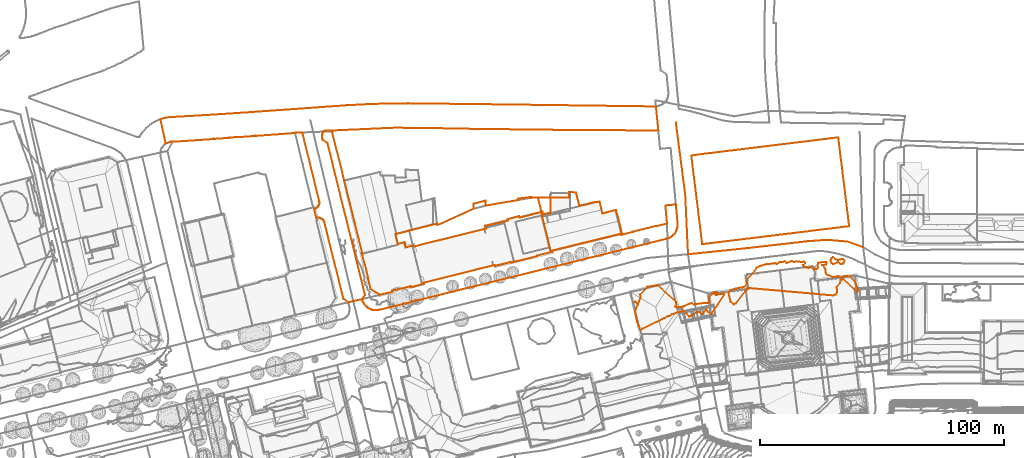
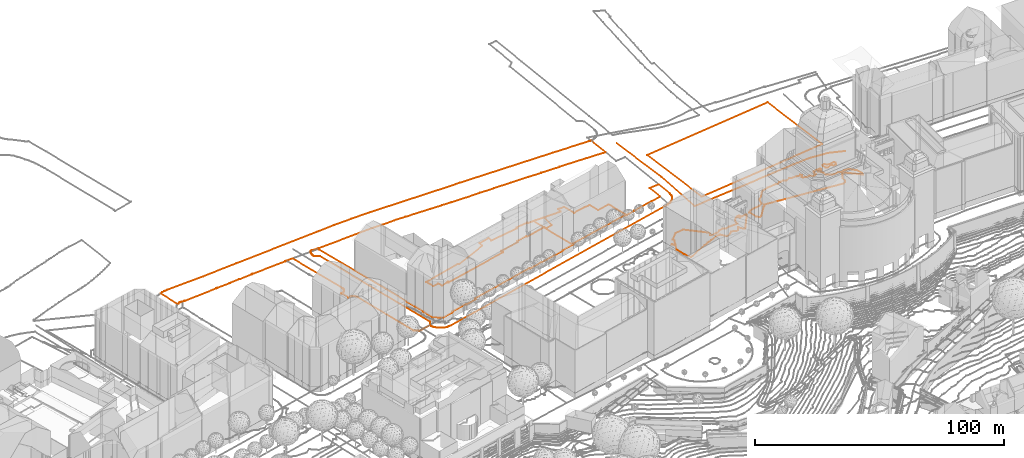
# Not in any storey, part 220 of 494: 10 proxies.
"""IFC2X3 model written with IfcOpenShell, lengths in metres."""

from ifc_helpers import new_model, entity, si_unit, frame, origin_with_axes, place, context, subcontext, project, element, save


model = new_model("IFC2X3")

# Units and contexts
model_context = context("Model", 3, precision=1e-05, world=origin_with_axes())
body_context = subcontext(model_context, "Body", "Model", "MODEL_VIEW")
ifc_project = project(units=[si_unit("AREAUNIT", "SQUARE_METRE"), si_unit("LENGTHUNIT", "METRE")], contexts=[model_context])

# Proxies
proxy_1_placement = place(None, frame((491.2227320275, 421.6907303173, 542.441), z_axis=(0.0, 0.0, 1.0), x_axis=(1.0, 0.0, 0.0)))
element("IfcBuildingElementProxy", 1, at=proxy_1_placement, Name="Road 4", ObjectType="NOTDEFINED", context=body_context, shape_type="GeometricCurveSet", body=[
    entity("IfcGeometricCurveSet", [entity("IfcPolyline", [entity("IfcCartesianPoint", [0.0, 0.0, 0.0]), entity("IfcCartesianPoint", [23.7289999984, 2.4449999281, 0.115]), entity("IfcCartesianPoint", [48.8959999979, 5.320999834, 0.12]), entity("IfcCartesianPoint", [56.9499999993, 5.89599982, 0.154]), entity("IfcCartesianPoint", [65.1479999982, 5.1779998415, 0.195]), entity("IfcCartesianPoint", [71.7629999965, 2.8759999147, 0.212])])]),
])
proxy_2_placement = place(None, frame((486.1887320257, 476.051728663, 542.28), z_axis=(0.0, 0.0, 1.0), x_axis=(1.0, 0.0, 0.0)))
element("IfcBuildingElementProxy", 2, at=proxy_2_placement, Name="Road 142", ObjectType="NOTDEFINED", context=body_context, shape_type="GeometricCurveSet", body=[
    entity("IfcGeometricCurveSet", [entity("IfcPolyline", [entity("IfcCartesianPoint", [0.0, 0.0, 0.0]), entity("IfcCartesianPoint", [3.8839999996, -29.9119990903, 0.013]), entity("IfcCartesianPoint", [5.0340000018, -54.3609983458, 0.161])])]),
])
proxy_3_placement = place(None, frame((492.5687320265, 462.1847160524, 542.5206115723), z_axis=(0.0, 0.0, 1.0), x_axis=(1.0, 0.0, 0.0)))
element("IfcBuildingElementProxy", 3, at=proxy_3_placement, Name="Roads Outline 46", ObjectType="NOTDEFINED", context=body_context, shape_type="GeometricCurveSet", body=[
    entity("IfcGeometricCurveSet", [entity("IfcPolyline", [entity("IfcCartesianPoint", [0.0, 0.0, 0.0]), entity("IfcCartesianPoint", [60.1900000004, 7.3900000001, 0.3333983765]), entity("IfcCartesianPoint", [64.6520000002, -29.003, 0.3335759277]), entity("IfcCartesianPoint", [4.4590000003, -36.3689999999, 0.0088112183]), entity("IfcCartesianPoint", [0.0, 0.0, 0.0])])]),
])
proxy_4_placement = place(None, frame((371.3067320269, 429.9197160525, 542.1499628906), z_axis=(0.0, 0.0, 1.0), x_axis=(1.0, 0.0, 0.0)))
element("IfcBuildingElementProxy", 4, at=proxy_4_placement, Name="Roads Outline 51", ObjectType="NOTDEFINED", context=body_context, shape_type="GeometricCurveSet", body=[
    entity("IfcGeometricCurveSet", [entity("IfcPolyline", [entity("IfcCartesianPoint", [0.0, 0.0, 0.0]), entity("IfcCartesianPoint", [5.73, 1.4479999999, 0.0662686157]), entity("IfcCartesianPoint", [17.0699999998, 4.3149999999, 0.2485368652]), entity("IfcCartesianPoint", [17.628, 3.885, 0.2478557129]), entity("IfcCartesianPoint", [32.1089999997, 10.4109999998, 0.2823580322]), entity("IfcCartesianPoint", [32.1229999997, 12.4679999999, 0.2827570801]), entity("IfcCartesianPoint", [36.952, 13.7309999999, 0.2695540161]), entity("IfcCartesianPoint", [37.0579999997, 11.7009999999, 0.270621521]), entity("IfcCartesianPoint", [50.0970000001, 13.933, 0.3232791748]), entity("IfcCartesianPoint", [50.412, 13.987, 0.31218573]), entity("IfcCartesianPoint", [50.327, 14.5209999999, 0.3151791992]), entity("IfcCartesianPoint", [55.6459999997, 15.246, 0.4142369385]), entity("IfcCartesianPoint", [55.6919999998, 14.8869999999, 0.4150623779]), entity("IfcCartesianPoint", [55.906, 14.923, 0.4185563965]), entity("IfcCartesianPoint", [58.466, 14.963, 0.4483769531]), entity("IfcCartesianPoint", [63.335, 14.9839999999, 0.4208803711]), entity("IfcCartesianPoint", [63.5649999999, 14.9849999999, 0.4200240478]), entity("IfcCartesianPoint", [63.5090000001, 8.824, 0.4202325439]), entity("IfcCartesianPoint", [60.4139999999, 8.064, 0.4387429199]), entity("IfcCartesianPoint", [60.139, 9.1229999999, 0.4405556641]), entity("IfcCartesianPoint", [59.926, 9.0829999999, 0.4419597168]), entity("IfcCartesianPoint", [59.7259999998, 9.0330000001, 0.4430568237]), entity("IfcCartesianPoint", [50.8959999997, 6.794, 0.2966740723]), entity("IfcCartesianPoint", [50.7519999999, 7.3699999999, 0.300211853]), entity("IfcCartesianPoint", [45.9419999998, 6.183, 0.3147667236]), entity("IfcCartesianPoint", [46.0859999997, 5.598, 0.3150303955]), entity("IfcCartesianPoint", [37.1489999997, 3.443, 0.2715379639]), entity("IfcCartesianPoint", [36.818, 3.3629999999, 0.2692299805]), entity("IfcCartesianPoint", [37.0839999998, 2.2989999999, 0.2708833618]), entity("IfcCartesianPoint", [36.8879999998, 2.25, 0.2689094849]), entity("IfcCartesianPoint", [7.5970000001, -5.061, 0.2592164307]), entity("IfcCartesianPoint", [7.4609999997, -4.577, 0.2669842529]), entity("IfcCartesianPoint", [7.267, -4.6300000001, 0.2485261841]), entity("IfcCartesianPoint", [7.0499999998, -4.6880000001, 0.2279307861]), entity("IfcCartesianPoint", [4.2439999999, -5.4140000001, 0.0237553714]), entity("IfcCartesianPoint", [3.8859999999, -3.9939999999, 0.0296766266]), entity("IfcCartesianPoint", [3.9249999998, -3.983, 0.0301345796]), entity("IfcCartesianPoint", [3.7599999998, -3.3290000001, 0.0396867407]), entity("IfcCartesianPoint", [1.0129999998, -4.0190000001, 0.0265872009]), entity("IfcCartesianPoint", [0.0, 0.0, 0.0])])]),
])
proxy_5_placement = place(None, frame((341.3117320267, 470.3077160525, 541.9813278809), z_axis=(0.0, 0.0, 1.0), x_axis=(1.0, 0.0, 0.0)))
element("IfcBuildingElementProxy", 5, at=proxy_5_placement, Name="Roads Outline 52", ObjectType="NOTDEFINED", context=body_context, shape_type="GeometricCurveSet", body=[
    entity("IfcGeometricCurveSet", [entity("IfcPolyline", [entity("IfcCartesianPoint", [0.0, 0.0, 0.0]), entity("IfcCartesianPoint", [0.048, 0.4639999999, -0.0005449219]), entity("IfcCartesianPoint", [0.1430000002, 0.9199999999, -0.0016234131]), entity("IfcCartesianPoint", [0.2319999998, 1.162, -0.0026337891]), entity("IfcCartesianPoint", [0.3569999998, 1.3869999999, -0.0040528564]), entity("IfcCartesianPoint", [0.5150000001, 1.591, -0.0058465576]), entity("IfcCartesianPoint", [0.6680000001, 1.7379999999, -0.0075834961]), entity("IfcCartesianPoint", [0.8390000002, 1.8639999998, -0.0095247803]), entity("IfcCartesianPoint", [1.1600000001, 2.0249999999, -0.0249763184]), entity("IfcCartesianPoint", [1.5079999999, 2.112, -0.0429030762]), entity("IfcCartesianPoint", [1.8670000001, 2.1209999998, -0.0613757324]), entity("IfcCartesianPoint", [4.0069999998, 2.0629999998, -0.0727415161]), entity("IfcCartesianPoint", [4.0830000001, 1.747, -0.0698701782]), entity("IfcCartesianPoint", [4.034, 1.726, -0.0717214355]), entity("IfcCartesianPoint", [4.1919999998, 1.0719999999, -0.0657520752]), entity("IfcCartesianPoint", [4.2390000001, 1.071, -0.0639763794]), entity("IfcCartesianPoint", [9.0430000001, -18.2420000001, 0.0092376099]), entity("IfcCartesianPoint", [9.0079999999, -18.2610000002, 0.0113204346]), entity("IfcCartesianPoint", [9.0600000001, -18.4750000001, 0.0082259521]), entity("IfcCartesianPoint", [9.1549999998, -18.8700000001, 0.0025725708]), entity("IfcCartesianPoint", [9.2179999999, -18.8560000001, -0.0011765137]), entity("IfcCartesianPoint", [16.4010000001, -47.99, 0.1141248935]), entity("IfcCartesianPoint", [16.2429999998, -48.0330000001, 0.1132426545]), entity("IfcCartesianPoint", [16.3539999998, -48.4790000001, 0.1252494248]), entity("IfcCartesianPoint", [17.4980000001, -53.0660000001, 0.1005418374]), entity("IfcCartesianPoint", [17.622, -53.044, 0.1004554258]), entity("IfcCartesianPoint", [18.8059999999, -57.8640000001, 0.0593007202]), entity("IfcCartesianPoint", [18.682, -57.8910000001, 0.0580421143]), entity("IfcCartesianPoint", [19.9369999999, -62.963, 0.0832633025]), entity("IfcCartesianPoint", [23.6359999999, -65.2680000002, 0.0802575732]), entity("IfcCartesianPoint", [28.801, -63.969, 0.1331612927]), entity("IfcCartesianPoint", [28.7069999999, -63.591, 0.1575611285]), entity("IfcCartesianPoint", [36.1779999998, -61.7280000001, 0.1812755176]), entity("IfcCartesianPoint", [36.2719999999, -62.1060000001, 0.1820090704]), entity("IfcCartesianPoint", [41.0069999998, -60.9340000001, 0.2471613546]), entity("IfcCartesianPoint", [41.4920000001, -60.814, 0.2407499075]), entity("IfcCartesianPoint", [41.3620000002, -60.3200000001, 0.2490253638]), entity("IfcCartesianPoint", [70.7089999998, -53.0080000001, 0.487225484]), entity("IfcCartesianPoint", [70.8250000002, -53.4740000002, 0.4918027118]), entity("IfcCartesianPoint", [71.3489999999, -53.3420000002, 0.497026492]), entity("IfcCartesianPoint", [77.0630000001, -51.9000000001, 0.5628379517]), entity("IfcCartesianPoint", [77.1140000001, -52.108, 0.5646739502]), entity("IfcCartesianPoint", [88.0869999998, -49.409, 0.6401970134]), entity("IfcCartesianPoint", [88.0219999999, -49.179, 0.6389728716]), entity("IfcCartesianPoint", [93.7719999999, -47.7580000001, 0.6169942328]), entity("IfcCartesianPoint", [94.2620000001, -47.6460000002, 0.6125298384]), entity("IfcCartesianPoint", [94.1319999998, -47.1260000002, 0.6095552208]), entity("IfcCartesianPoint", [122.4849999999, -40.192, 0.6374625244]), entity("IfcCartesianPoint", [122.6189999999, -40.6630000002, 0.6415355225]), entity("IfcCartesianPoint", [122.9789999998, -40.5730000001, 0.6431118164]), entity("IfcCartesianPoint", [127.1979999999, -39.5330000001, 0.5915974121]), entity("IfcCartesianPoint", [127.1579999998, -39.3930000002, 0.5912458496]), entity("IfcCartesianPoint", [136.6749999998, -37.0450000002, 0.548128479]), entity("IfcCartesianPoint", [136.7170000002, -37.172, 0.5469928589]), entity("IfcCartesianPoint", [141.3100000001, -36.044, 0.4828564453]), entity("IfcCartesianPoint", [140.6170000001, -28.6460000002, 0.4720358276]), entity("IfcCartesianPoint", [144.9309999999, -28.2380000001, 0.5539501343]), entity("IfcCartesianPoint", [145.6209999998, -35.871, 0.559130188]), entity("IfcCartesianPoint", [145.6540000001, -36.544, 0.5593779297]), entity("IfcCartesianPoint", [145.6099999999, -37.2170000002, 0.5590476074]), entity("IfcCartesianPoint", [145.4909999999, -37.8800000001, 0.5581542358]), entity("IfcCartesianPoint", [145.298, -38.5260000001, 0.5567053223]), entity("IfcCartesianPoint", [145.034, -39.145, 0.5547233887]), entity("IfcCartesianPoint", [144.7009999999, -39.7310000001, 0.5540160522]), entity("IfcCartesianPoint", [144.304, -40.2760000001, 0.5553487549]), entity("IfcCartesianPoint", [143.8390000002, -40.78, 0.5569575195]), entity("IfcCartesianPoint", [143.3199999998, -41.2270000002, 0.5596184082]), entity("IfcCartesianPoint", [142.7519999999, -41.612, 0.5541252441]), entity("IfcCartesianPoint", [142.1439999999, -41.929, 0.5124143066]), entity("IfcCartesianPoint", [141.503, -42.1730000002, 0.4864963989]), entity("IfcCartesianPoint", [141.3020000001, -42.233, 0.4827055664]), entity("IfcCartesianPoint", [141.0989999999, -42.2860000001, 0.4788770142]), entity("IfcCartesianPoint", [23.4610000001, -71.3660000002, -0.1184070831]), entity("IfcCartesianPoint", [22.7960000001, -71.4850000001, -0.1276256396]), entity("IfcCartesianPoint", [22.122, -71.527, -0.1253325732]), entity("IfcCartesianPoint", [21.4479999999, -71.4920000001, -0.1268448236]), entity("IfcCartesianPoint", [20.7820000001, -71.3800000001, -0.1284472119]), entity("IfcCartesianPoint", [20.1329999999, -71.192, -0.1162178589]), entity("IfcCartesianPoint", [19.5099999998, -70.932, -0.1090825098]), entity("IfcCartesianPoint", [18.9210000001, -70.6020000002, -0.1078495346]), entity("IfcCartesianPoint", [18.4019999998, -70.2290000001, -0.1030802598]), entity("IfcCartesianPoint", [17.926, -69.8030000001, -0.1095355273]), entity("IfcCartesianPoint", [17.4989999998, -69.327, -0.1082908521]), entity("IfcCartesianPoint", [17.125, -68.8090000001, -0.1099211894]), entity("IfcCartesianPoint", [16.8100000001, -68.253, -0.1107498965]), entity("IfcCartesianPoint", [16.557, -67.666, -0.1078917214]), entity("IfcCartesianPoint", [16.3689999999, -67.0550000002, -0.0898839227]), entity("IfcCartesianPoint", [16.4199999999, -66.9710000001, -0.0825652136]), entity("IfcCartesianPoint", [17.54, -65.111, -0.0204521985]), entity("IfcCartesianPoint", [2.219, -3.0860000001, -0.0722038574]), entity("IfcCartesianPoint", [0.1949999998, -1.777, -0.0022137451]), entity("IfcCartesianPoint", [0.1030000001, -1.344, -0.0011693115]), entity("IfcCartesianPoint", [0.04, -0.9060000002, -0.0004541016]), entity("IfcCartesianPoint", [0.0049999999, -0.4540000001, -5.67627e-05]), entity("IfcCartesianPoint", [0.0, 0.0, 0.0])])]),
])
proxy_6_placement = place(None, frame((275.0697320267, 477.0437160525, 541.6987900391), z_axis=(0.0, 0.0, 1.0), x_axis=(1.0, 0.0, 0.0)))
element("IfcBuildingElementProxy", 6, at=proxy_6_placement, Name="Roads Outline 98", ObjectType="NOTDEFINED", context=body_context, shape_type="GeometricCurveSet", body=[
    entity("IfcGeometricCurveSet", [entity("IfcPolyline", [entity("IfcCartesianPoint", [0.0, 0.0, 0.0]), entity("IfcCartesianPoint", [0.9550000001, 0.2999999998, 0.0450963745]), entity("IfcCartesianPoint", [1.929, 0.534, 0.0207940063]), entity("IfcCartesianPoint", [2.9160000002, 0.7009999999, 0.0186401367]), entity("IfcCartesianPoint", [3.912, 0.801, -0.0177634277]), entity("IfcCartesianPoint", [20.8390000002, 1.7969999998, -0.0187177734]), entity("IfcCartesianPoint", [37.0350000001, 2.865, 0.1146030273]), entity("IfcCartesianPoint", [76.2800000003, 5.6599999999, 0.2426313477]), entity("IfcCartesianPoint", [84.1529999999, 6.098, 0.4367965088]), entity("IfcCartesianPoint", [92.6230000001, 6.3779999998, 0.4419957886]), entity("IfcCartesianPoint", [101.443, 6.4759999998, 0.5096697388]), entity("IfcCartesianPoint", [142.7919999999, 5.9759999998, 0.7670620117]), entity("IfcCartesianPoint", [185.5440000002, 5.4099999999, 0.9065622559]), entity("IfcCartesianPoint", [202.1740000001, 5.193, 0.8507559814]), entity("IfcCartesianPoint", [202.5989999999, 5.1849999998, 0.8392645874]), entity("IfcCartesianPoint", [203.0240000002, 5.2089999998, 0.8277731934]), entity("IfcCartesianPoint", [204.0160000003, -4.78, 0.7992883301]), entity("IfcCartesianPoint", [195.247, -4.6860000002, 0.8912233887]), entity("IfcCartesianPoint", [195.2519999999, -4.6330000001, 0.8912294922]), entity("IfcCartesianPoint", [182.966, -4.5110000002, 0.9174223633]), entity("IfcCartesianPoint", [182.9560000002, -4.5550000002, 0.9174052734]), entity("IfcCartesianPoint", [174.3390000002, -4.456, 0.889439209]), entity("IfcCartesianPoint", [174.3259999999, -4.5440000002, 0.8896708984]), entity("IfcCartesianPoint", [168.2680000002, -4.4710000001, 0.9985366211]), entity("IfcCartesianPoint", [160.4900000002, -4.3790000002, 0.8777983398]), entity("IfcCartesianPoint", [152.6710000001, -4.2890000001, 0.8739831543]), entity("IfcCartesianPoint", [146.1809999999, -4.2100000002, 0.779840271]), entity("IfcCartesianPoint", [132.8829999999, -4.0710000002, 0.7219985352]), entity("IfcCartesianPoint", [128.463, -4.0010000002, 0.7368657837]), entity("IfcCartesianPoint", [123.7630000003, -3.9310000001, 0.7331105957]), entity("IfcCartesianPoint", [111.6899999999, -3.6850000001, 0.7322818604]), entity("IfcCartesianPoint", [106.4109999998, -3.5620000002, 0.7436603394]), entity("IfcCartesianPoint", [101.1630000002, -3.6130000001, 0.5055169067]), entity("IfcCartesianPoint", [96.6600000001, -3.4920000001, 0.4575756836]), entity("IfcCartesianPoint", [70.7039999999, -4.6530000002, 0.2269865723]), entity("IfcCartesianPoint", [70.2489999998, -4.6730000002, 0.2097963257]), entity("IfcCartesianPoint", [68.1090000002, -4.6150000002, 0.2211621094]), entity("IfcCartesianPoint", [67.75, -4.6240000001, 0.2396347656]), entity("IfcCartesianPoint", [67.4020000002, -4.7110000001, 0.2575615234]), entity("IfcCartesianPoint", [67.0810000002, -4.8720000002, 0.2730130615]), entity("IfcCartesianPoint", [66.9100000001, -4.9980000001, 0.2749543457]), entity("IfcCartesianPoint", [66.7570000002, -5.145, 0.2766912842]), entity("IfcCartesianPoint", [66.5989999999, -5.3490000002, 0.2784849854]), entity("IfcCartesianPoint", [66.4739999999, -5.574, 0.2799040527]), entity("IfcCartesianPoint", [66.3850000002, -5.8160000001, 0.2809144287]), entity("IfcCartesianPoint", [66.29, -6.2720000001, 0.2819929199]), entity("IfcCartesianPoint", [66.2420000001, -6.736, 0.2825378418]), entity("IfcCartesianPoint", [66.247, -7.1900000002, 0.2824810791]), entity("IfcCartesianPoint", [66.2820000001, -7.6420000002, 0.2820837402]), entity("IfcCartesianPoint", [66.3450000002, -8.0800000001, 0.2813685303]), entity("IfcCartesianPoint", [66.4369999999, -8.513, 0.2803240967]), entity("IfcCartesianPoint", [68.4610000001, -9.8220000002, 0.2103339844]), entity("IfcCartesianPoint", [83.7820000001, -71.8470000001, 0.2620856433]), entity("IfcCartesianPoint", [82.662, -73.7070000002, 0.1999726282]), entity("IfcCartesianPoint", [76.9339999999, -75.0580000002, 0.1261030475]), entity("IfcCartesianPoint", [76.8870000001, -74.875, 0.1330368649]), entity("IfcCartesianPoint", [75.0130000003, -73.743, 0.1900786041]), entity("IfcCartesianPoint", [67.2200000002, -42.3730000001, 0.2669370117]), entity("IfcCartesianPoint", [67.0649999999, -41.9410000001, 0.2731947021]), entity("IfcCartesianPoint", [66.8390000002, -41.5420000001, 0.275760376]), entity("IfcCartesianPoint", [66.5490000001, -41.1860000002, 0.2790526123]), entity("IfcCartesianPoint", [66.2039999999, -40.8840000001, 0.2829692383]), entity("IfcCartesianPoint", [65.8119999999, -40.645, 0.2785126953]), entity("IfcCartesianPoint", [65.4560000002, -40.5080000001, 0.271842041]), entity("IfcCartesianPoint", [65.0840000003, -40.4240000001, 0.2647866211]), entity("IfcCartesianPoint", [64.7039999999, -40.3960000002, 0.2563210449]), entity("IfcCartesianPoint", [64.324, -40.4240000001, 0.2478554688]), entity("IfcCartesianPoint", [63.952, -40.5080000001, 0.2393586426]), entity("IfcCartesianPoint", [63.906, -40.5220000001, 0.2382720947]), entity("IfcCartesianPoint", [62.966, -36.7170000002, 0.2160687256]), entity("IfcCartesianPoint", [63.0249999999, -36.7080000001, 0.2174623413]), entity("IfcCartesianPoint", [63.4070000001, -36.6170000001, 0.2264854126]), entity("IfcCartesianPoint", [63.77, -36.4680000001, 0.2350596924]), entity("IfcCartesianPoint", [64.1060000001, -36.2640000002, 0.2429962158]), entity("IfcCartesianPoint", [64.4050000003, -36.01, 0.2496599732]), entity("IfcCartesianPoint", [64.662, -35.7130000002, 0.255385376]), entity("IfcCartesianPoint", [64.8650000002, -35.3890000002, 0.2599077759]), entity("IfcCartesianPoint", [65.017, -35.0380000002, 0.2632940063]), entity("IfcCartesianPoint", [65.1140000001, -34.6690000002, 0.2654337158]), entity("IfcCartesianPoint", [65.1540000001, -34.2890000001, 0.2661832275]), entity("IfcCartesianPoint", [65.1359999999, -33.9070000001, 0.2658459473]), entity("IfcCartesianPoint", [65.0610000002, -33.5320000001, 0.264274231]), entity("IfcCartesianPoint", [58.1550000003, -5.4750000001, 0.1135582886]), entity("IfcCartesianPoint", [55.2889999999, -5.5850000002, 0.0708122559]), entity("IfcCartesianPoint", [54.611, -5.6420000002, 0.0607150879]), entity("IfcCartesianPoint", [54.6189999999, -5.7320000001, 0.0608342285]), entity("IfcCartesianPoint", [39.0249999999, -6.888, 0.1503070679]), entity("IfcCartesianPoint", [39.0049999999, -6.8050000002, 0.1496100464]), entity("IfcCartesianPoint", [38.6609999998, -6.8290000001, 0.1376212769]), entity("IfcCartesianPoint", [38.3160000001, -6.8540000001, 0.1255976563]), entity("IfcCartesianPoint", [38.3220000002, -6.9370000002, 0.1258067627]), entity("IfcCartesianPoint", [32.463, -7.3570000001, -0.0012525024]), entity("IfcCartesianPoint", [32.4399999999, -7.273, -0.0015627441]), entity("IfcCartesianPoint", [27.8530000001, -7.611, -0.018352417]), entity("IfcCartesianPoint", [27.8590000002, -7.6950000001, -0.0183370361]), entity("IfcCartesianPoint", [21.9920000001, -8.1140000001, -0.0198977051]), entity("IfcCartesianPoint", [21.9700000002, -8.05, -0.0198748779]), entity("IfcCartesianPoint", [21.591, -8.0790000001, -0.0194816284]), entity("IfcCartesianPoint", [21.2120000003, -8.108, -0.0190883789]), entity("IfcCartesianPoint", [21.2200000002, -8.2070000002, -0.0190966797]), entity("IfcCartesianPoint", [5.8790000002, -9.2550000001, -0.1546019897]), entity("IfcCartesianPoint", [5.872, -9.155, -0.1545964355]), entity("IfcCartesianPoint", [5.074, -9.209, -0.1496696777]), entity("IfcCartesianPoint", [4.466, -9.2350000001, -0.072407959]), entity("IfcCartesianPoint", [3.8650000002, -9.3360000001, -0.0155689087]), entity("IfcCartesianPoint", [3.281, -9.5080000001, 0.0116991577]), entity("IfcCartesianPoint", [2.7220000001, -9.75, 0.0174915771]), entity("IfcCartesianPoint", [2.1970000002, -10.0590000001, 0.0143833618]), entity("IfcCartesianPoint", [0.014, -0.0590000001, 0.0004511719]), entity("IfcCartesianPoint", [0.0, 0.0, 0.0])])]),
])
proxy_7_placement = place(None, frame((429.7727320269, 444.8827160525, 542.5983398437), z_axis=(0.0, 0.0, 1.0), x_axis=(1.0, 0.0, 0.0)))
element("IfcBuildingElementProxy", 7, at=proxy_7_placement, Name="Cadastre 46", ObjectType="NOTDEFINED", context=body_context, shape_type="GeometricCurveSet", body=[
    entity("IfcGeometricCurveSet", [entity("IfcPolyline", [entity("IfcCartesianPoint", [0.0, 0.0, 0.0]), entity("IfcCartesianPoint", [4.8689999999, 0.0209999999, -0.027496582]), entity("IfcCartesianPoint", [12.7590000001, 0.061, 0.1036469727]), entity("IfcCartesianPoint", [12.7689999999, 2.2009999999, 0.1035786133]), entity("IfcCartesianPoint", [15.5779999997, 2.1610000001, 0.0958436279]), entity("IfcCartesianPoint", [16.909, -3.3389999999, 0.0937314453]), entity("IfcCartesianPoint", [22.6880000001, -1.9280000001, 0.026887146]), entity("IfcCartesianPoint", [25.2179999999, -1.6780000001, -0.0156928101]), entity("IfcCartesianPoint", [26.378, -6.4680000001, 0.0110424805]), entity("IfcCartesianPoint", [31.997, -5.0179999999, 0.013987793]), entity("IfcCartesianPoint", [34.5179999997, -15.148, 0.0260998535]), entity("IfcCartesianPoint", [34.1579999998, -15.2380000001, 0.0245235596]), entity("IfcCartesianPoint", [34.0239999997, -14.767, 0.0204505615]), entity("IfcCartesianPoint", [5.6709999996, -21.7010000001, -0.0074567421]), entity("IfcCartesianPoint", [5.801, -22.2210000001, -0.0044821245]), entity("IfcCartesianPoint", [5.3109999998, -22.3330000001, -1.77301e-05]), entity("IfcCartesianPoint", [1.2599999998, -5.9299999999, -0.0053201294]), entity("IfcCartesianPoint", [1.46, -5.8800000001, -0.0064172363]), entity("IfcCartesianPoint", [0.0, 0.0, 0.0])])]),
])
proxy_8_placement = place(None, frame((549.6777320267, 419.3592470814, 543.0), z_axis=(0.0, 0.0, 1.0), x_axis=(1.0, 0.0, 0.0)))
element("IfcBuildingElementProxy", 8, at=proxy_8_placement, Name="Contour Line 543.0 m", ObjectType="NOTDEFINED", context=body_context, shape_type="GeometricCurveSet", body=[
    entity("IfcGeometricCurveSet", [entity("IfcPolyline", [entity("IfcCartesianPoint", [5.1730820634, -1.188531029, 0.0]), entity("IfcCartesianPoint", [5.0, -1.5690776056, 0.0]), entity("IfcCartesianPoint", [4.0, -1.6561455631, 0.0]), entity("IfcCartesianPoint", [3.0, -0.9341818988, 0.0]), entity("IfcCartesianPoint", [1.0, -1.7316389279, 0.0]), entity("IfcCartesianPoint", [0.3633888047, -1.188531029, 0.0]), entity("IfcCartesianPoint", [0.0, 0.0, 0.0]), entity("IfcCartesianPoint", [0.3021351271, 0.811468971, 0.0]), entity("IfcCartesianPoint", [1.0, 1.1462521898, 0.0]), entity("IfcCartesianPoint", [2.0, 0.1603711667, 0.0]), entity("IfcCartesianPoint", [3.0, 0.0076185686, 0.0]), entity("IfcCartesianPoint", [5.0, 0.4407721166, 0.0]), entity("IfcCartesianPoint", [5.6673883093, -0.188531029, 0.0]), entity("IfcCartesianPoint", [5.1730820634, -1.188531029, 0.0])])]),
])
proxy_9_placement = place(None, frame((507.718871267, 406.1707160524, 543.0), z_axis=(0.0, 0.0, 1.0), x_axis=(1.0, 0.0, 0.0)))
element("IfcBuildingElementProxy", 9, at=proxy_9_placement, Name="Contour Line 543.0 m", ObjectType="NOTDEFINED", context=body_context, shape_type="GeometricCurveSet", body=[
    entity("IfcGeometricCurveSet", [entity("IfcPolyline", [entity("IfcCartesianPoint", [2.0564217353, -5.0, 0.0]), entity("IfcCartesianPoint", [0.9588607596, -3.9842931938, 0.0]), entity("IfcCartesianPoint", [0.0, 0.0, 0.0]), entity("IfcCartesianPoint", [0.9588607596, 0.7363304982, 0.0]), entity("IfcCartesianPoint", [2.9588607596, 1.5015792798, 0.0]), entity("IfcCartesianPoint", [6.0602692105, 2.0, 0.0]), entity("IfcCartesianPoint", [7.5096628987, 3.0, 0.0]), entity("IfcCartesianPoint", [7.9588607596, 5.6172413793, 0.0]), entity("IfcCartesianPoint", [9.9588607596, 7.629139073, 0.0]), entity("IfcCartesianPoint", [11.6481169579, 10.0, 0.0]), entity("IfcCartesianPoint", [12.9588607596, 10.7320000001, 0.0]), entity("IfcCartesianPoint", [14.9588607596, 11.3230769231, 0.0]), entity("IfcCartesianPoint", [18.9588607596, 11.8118195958, 0.0]), entity("IfcCartesianPoint", [19.9588607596, 11.587525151, 0.0]), entity("IfcCartesianPoint", [20.9588607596, 12.2712594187, 0.0]), entity("IfcCartesianPoint", [21.9588607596, 12.2150900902, 0.0]), entity("IfcCartesianPoint", [22.9588607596, 12.652854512, 0.0]), entity("IfcCartesianPoint", [23.9588607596, 11.8566037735, 0.0]), entity("IfcCartesianPoint", [25.9588607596, 12.7605633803, 0.0]), entity("IfcCartesianPoint", [26.9588607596, 12.4071428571, 0.0]), entity("IfcCartesianPoint", [28.9588607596, 12.4900737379, 0.0]), entity("IfcCartesianPoint", [29.9588607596, 12.243262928, 0.0]), entity("IfcCartesianPoint", [30.9588607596, 12.5965346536, 0.0]), entity("IfcCartesianPoint", [31.5239252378, 12.0, 0.0]), entity("IfcCartesianPoint", [30.6587709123, 11.0, 0.0]), entity("IfcCartesianPoint", [30.9588607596, 10.4160839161, 0.0]), entity("IfcCartesianPoint", [32.9588607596, 9.8693820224, 0.0]), entity("IfcCartesianPoint", [33.9588607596, 10.1792828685, 0.0]), entity("IfcCartesianPoint", [34.9588607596, 9.2992345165, 0.0]), entity("IfcCartesianPoint", [35.9588607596, 9.3822714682, 0.0]), entity("IfcCartesianPoint", [36.7878570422, 10.0, 0.0]), entity("IfcCartesianPoint", [36.459586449, 11.0, 0.0]), entity("IfcCartesianPoint", [36.8018031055, 12.0, 0.0]), entity("IfcCartesianPoint", [38.9588607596, 12.3868852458, 0.0]), entity("IfcCartesianPoint", [39.9588607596, 12.2748489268, 0.0]), entity("IfcCartesianPoint", [40.2839377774, 12.0, 0.0]), entity("IfcCartesianPoint", [39.9588607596, 11.3277268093, 0.0]), entity("IfcCartesianPoint", [38.3330843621, 11.0, 0.0]), entity("IfcCartesianPoint", [39.4554361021, 10.0, 0.0]), entity("IfcCartesianPoint", [39.8603004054, 9.0, 0.0]), entity("IfcCartesianPoint", [39.9588607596, 7.6762589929, 0.0]), entity("IfcCartesianPoint", [40.6162034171, 7.0, 0.0]), entity("IfcCartesianPoint", [42.9588607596, 6.1422222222, 0.0]), entity("IfcCartesianPoint", [44.9588607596, 6.5475896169, 0.0]), entity("IfcCartesianPoint", [45.9588607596, 6.0495169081, 0.0]), entity("IfcCartesianPoint", [47.9588607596, 6.603115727, 0.0]), entity("IfcCartesianPoint", [49.9588607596, 6.3050471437, 0.0]), entity("IfcCartesianPoint", [52.1614656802, 4.0, 0.0]), entity("IfcCartesianPoint", [53.1252501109, 1.0, 0.0]), entity("IfcCartesianPoint", [52.9588607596, -0.0563106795, 0.0]), entity("IfcCartesianPoint", [46.9588607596, 5.255319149, 0.0]), entity("IfcCartesianPoint", [45.9832510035, 5.0, 0.0]), entity("IfcCartesianPoint", [45.7874321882, 4.0, 0.0]), entity("IfcCartesianPoint", [44.4301722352, 2.0, 0.0]), entity("IfcCartesianPoint", [44.4770029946, 0.0, 0.0]), entity("IfcCartesianPoint", [43.9588607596, -0.9177377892, 0.0]), entity("IfcCartesianPoint", [42.9588607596, -1.3736842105, 0.0]), entity("IfcCartesianPoint", [7.9588607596, 1.7052023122, 0.0]), entity("IfcCartesianPoint", [7.7177540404, 1.0, 0.0]), entity("IfcCartesianPoint", [6.9588607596, 0.4128440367, 0.0]), entity("IfcCartesianPoint", [2.9588607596, -4.5881261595, 0.0]), entity("IfcCartesianPoint", [2.0564217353, -5.0, 0.0])])]),
])
proxy_10_placement = place(None, frame((469.3762966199, 402.1707160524, 543.0), z_axis=(0.0, 0.0, 1.0), x_axis=(1.0, 0.0, 0.0)))
element("IfcBuildingElementProxy", 10, at=proxy_10_placement, Name="Contour Line 543.0 m", ObjectType="NOTDEFINED", context=body_context, shape_type="GeometricCurveSet", body=[
    entity("IfcGeometricCurveSet", [entity("IfcPolyline", [entity("IfcCartesianPoint", [3.2992230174, -11.0, 0.0]), entity("IfcCartesianPoint", [2.3014354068, -11.4782608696, 0.0]), entity("IfcCartesianPoint", [0.9510644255, -8.0, 0.0]), entity("IfcCartesianPoint", [0.0740895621, -4.0, 0.0]), entity("IfcCartesianPoint", [1.2303242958, -1.0, 0.0]), entity("IfcCartesianPoint", [0.0, 0.0, 0.0]), entity("IfcCartesianPoint", [0.3014354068, 0.1769662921, 0.0]), entity("IfcCartesianPoint", [1.3014354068, -0.8274932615, 0.0]), entity("IfcCartesianPoint", [2.4093628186, 2.0, 0.0]), entity("IfcCartesianPoint", [2.2794715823, 3.0, 0.0]), entity("IfcCartesianPoint", [5.3014354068, 6.2156080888, 0.0]), entity("IfcCartesianPoint", [9.3014354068, 6.8173258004, 0.0]), entity("IfcCartesianPoint", [16.9256184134, 0.0, 0.0]), entity("IfcCartesianPoint", [17.2029505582, -1.0, 0.0]), entity("IfcCartesianPoint", [16.6253790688, -2.0, 0.0]), entity("IfcCartesianPoint", [17.3014354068, -2.2532981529, 0.0]), entity("IfcCartesianPoint", [20.3014354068, -1.8068303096, 0.0]), entity("IfcCartesianPoint", [21.5608948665, -1.0, 0.0]), entity("IfcCartesianPoint", [23.3014354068, -0.5569306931, 0.0]), entity("IfcCartesianPoint", [24.3014354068, -1.1086350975, 0.0]), entity("IfcCartesianPoint", [26.3014354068, -0.6496163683, 0.0]), entity("IfcCartesianPoint", [30.3014354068, -0.3897180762, 0.0]), entity("IfcCartesianPoint", [30.5617620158, 2.0, 0.0]), entity("IfcCartesianPoint", [31.4316437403, 3.0, 0.0]), entity("IfcCartesianPoint", [32.3014354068, 3.786146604, 0.0]), entity("IfcCartesianPoint", [33.3014354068, 2.7329286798, 0.0]), entity("IfcCartesianPoint", [33.9862603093, 3.0, 0.0]), entity("IfcCartesianPoint", [32.9517421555, 4.0, 0.0]), entity("IfcCartesianPoint", [33.541267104, 4.0, 0.0]), entity("IfcCartesianPoint", [34.3014354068, 3.1300160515, 0.0]), entity("IfcCartesianPoint", [36.3014354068, 3.3728222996, 0.0]), entity("IfcCartesianPoint", [36.6358104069, 3.0, 0.0]), entity("IfcCartesianPoint", [31.3014354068, -5.0328638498, 0.0]), entity("IfcCartesianPoint", [29.9388761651, -4.0, 0.0]), entity("IfcCartesianPoint", [29.3014354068, -2.8488664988, 0.0]), entity("IfcCartesianPoint", [28.3014354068, -4.3755656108, 0.0]), entity("IfcCartesianPoint", [27.3014354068, -4.892420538, 0.0]), entity("IfcCartesianPoint", [26.3014354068, -4.1911532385, 0.0]), entity("IfcCartesianPoint", [25.3014354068, -4.0512820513, 0.0]), entity("IfcCartesianPoint", [24.3014354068, -5.070945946, 0.0]), entity("IfcCartesianPoint", [22.3014354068, -5.9750000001, 0.0]), entity("IfcCartesianPoint", [20.3014354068, -3.7168141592, 0.0]), entity("IfcCartesianPoint", [19.3014354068, -3.7, 0.0]), entity("IfcCartesianPoint", [15.3014354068, -5.05, 0.0]), entity("IfcCartesianPoint", [14.3014354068, -5.774590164, 0.0]), entity("IfcCartesianPoint", [13.3014354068, -5.9220985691, 0.0]), entity("IfcCartesianPoint", [12.3014354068, -6.6989247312, 0.0]), entity("IfcCartesianPoint", [11.3014354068, -6.9411071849, 0.0]), entity("IfcCartesianPoint", [3.2992230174, -11.0, 0.0])])]),
])

save(model, "model.ifc")
